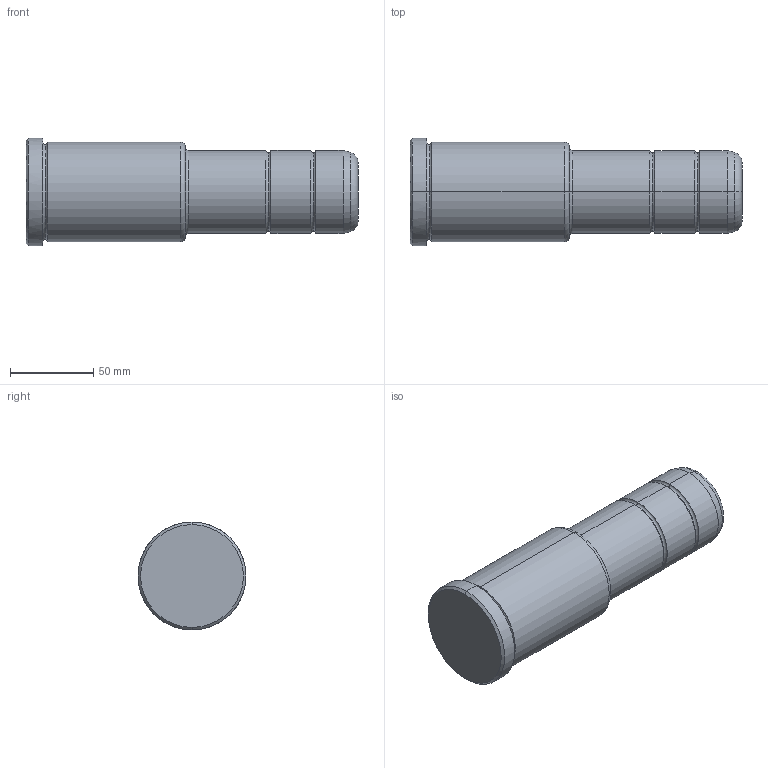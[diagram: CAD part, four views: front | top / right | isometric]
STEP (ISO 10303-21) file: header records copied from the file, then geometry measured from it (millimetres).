
FILE_DESCRIPTION(('CATIA V5 STEP Exchange'),'2;1');
FILE_NAME('C:\Users\Utente\Desktop\IO LAVORO\3D X SITO CF\X SITO\PLASTICA\351\351-50X96X200.stp','2021-11-08T18:59:07+00:00',('none'),('none'),'CATIA Version 5 Release 20 GA (IN-10)','CATIA V5 STEP AP203','none');
FILE_SCHEMA(('CONFIG_CONTROL_DESIGN'));
Length unit declared in the file: millimetre
Products named in the file (1): 351-50X96X200
Bounding box: 200 x 65 x 65 mm (x, y, z)
Volume: 476159.4 mm3; surface area: 40855.7 mm2
Topology: 1 solids, 1 shells, 35 faces, 98 edges, 66 vertices
Faces by surface type: torus 18, cylinder 10, cone 4, plane 3
Entity records: 1198 total; most frequent: CARTESIAN_POINT 256, ORIENTED_EDGE 196, DIRECTION 164, AXIS2_PLACEMENT_3D 116, EDGE_CURVE 98, CIRCLE 80, VERTEX_POINT 66, EDGE_LOOP 36
